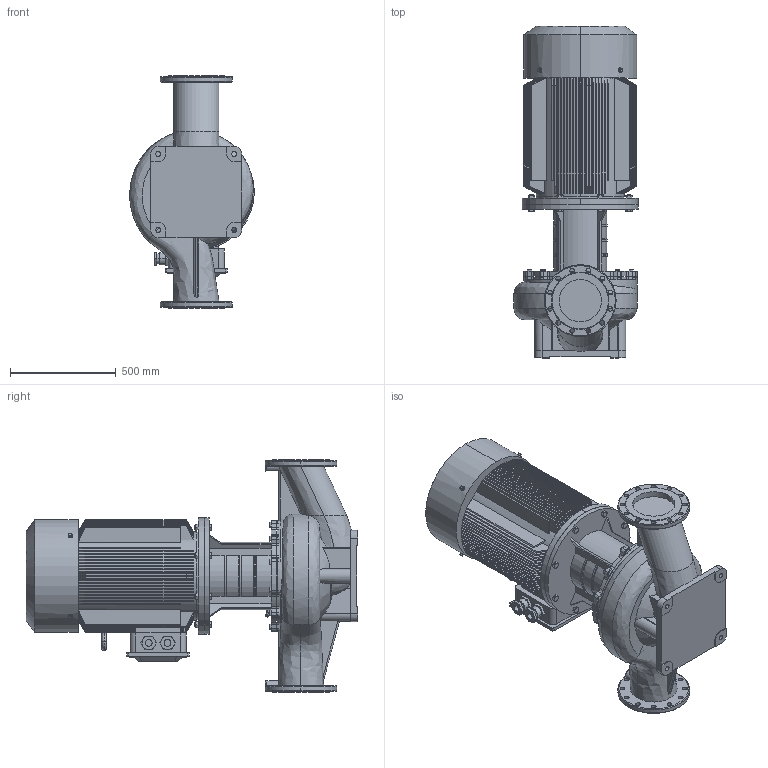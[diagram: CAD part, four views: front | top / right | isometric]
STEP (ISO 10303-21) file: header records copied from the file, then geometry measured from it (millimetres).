
FILE_DESCRIPTION(/* description */ (''),/* implementation_level */ '2;1');
FILE_NAME(/* name */ 'TD200-47-4安装尺寸图.stp',/* time_stamp */ '2026-09-07T16:59:29+08:00',/* author */ (''),/* organization */ (''),/* preprocessor_version */ 'ST-DEVELOPER v16.7',/* originating_system */ 'SIEMENS PLM Software NX 1847',/* authorisation */ '');
FILE_SCHEMA (('AP203_CONFIGURATION_CONTROLLED_3D_DESIGN_OF_MECHANICAL_PARTS_AND_ASSEMBLIES_MIM_LF { 1 0 10303 403 2 1 2}'));
Products named in the file (1): Admi55F8EAC4z5il
Bounding box: 590.37 x 1572 x 1100 mm (x, y, z)
Volume: 286322276.9 mm3; surface area: 9979130.7 mm2
Topology: 1 solids, 12 shells, 1930 faces, 4771 edges, 2981 vertices
Faces by surface type: plane 762, cylinder 538, cone 497, torus 82, bspline 27, sphere 24
Full cylindrical faces by diameter (mm): 8 x1, 10 x2, 12.9 x1, 13.682 x12, 17.623 x16, 18 x12, 19.64 x12, 25.34 x8, 390 x1, 410 x1, 550 x1
Entity records: 65312 total; most frequent: CARTESIAN_POINT 21043, ORIENTED_EDGE 9202, DIRECTION 9063, EDGE_CURVE 4601, AXIS2_PLACEMENT_3D 3665, VERTEX_POINT 2923, EDGE_LOOP 2258, ADVANCED_FACE 1930
